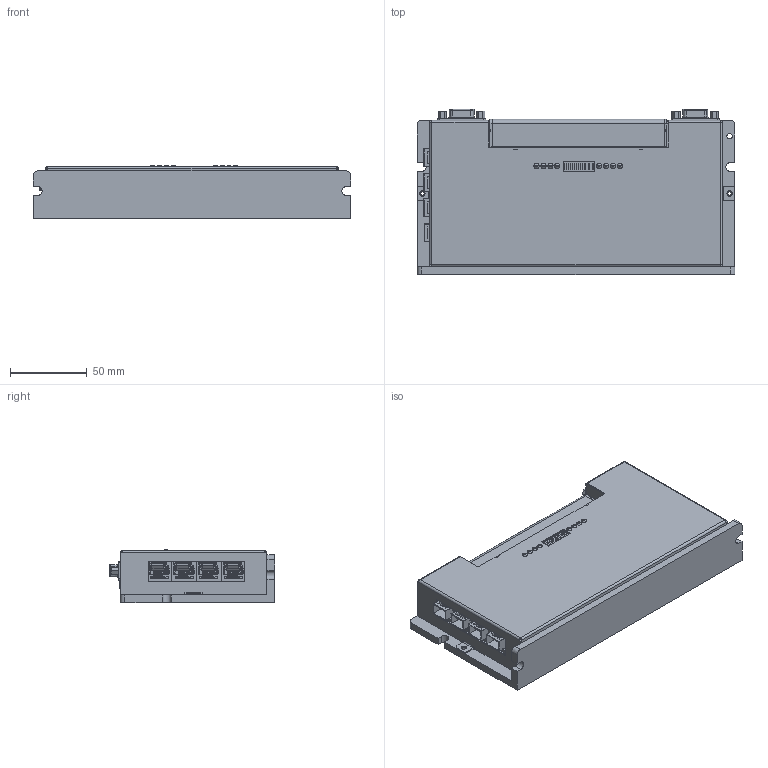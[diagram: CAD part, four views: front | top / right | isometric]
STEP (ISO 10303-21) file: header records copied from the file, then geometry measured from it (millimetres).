
FILE_DESCRIPTION((''),'2;1');
FILE_NAME('000_ASM','2020-06-09T14:27:39',('RD0060'),(''),'CREO PARAMETRIC BY PTC INC, 2016390','CREO PARAMETRIC BY PTC INC, 2016390','');
FILE_SCHEMA(('CONFIG_CONTROL_DESIGN'));
Products named in the file (28): FD134S-D2HT; APCB; DT12-1; DT-2; DT-12_ASM; PIN; PINT; PIN_ASM; CD; APCB_ASM; BPCB; 15ZHEN-DAOLISHI_2; WEBKOU_15; CRYSTALHEAD; TTL_ASM; 8PSW; DINKLE_0156-2924L; DINKLE-24P_ASM; LED1; RJ45; BPCB_ASM; PCB_ASM; HS; TR; M3-MOUS; HS1; M3X18; 000_ASM
Assembly tree (56 placements, depth 5):
  000_ASM
    FD134S-D2HT
    PCB_ASM
      APCB_ASM
        APCB
        DT-12_ASM
          DT12-1
          DT-2
        PIN_ASM
          PIN
          PINT
        CD  x2
      BPCB_ASM
        BPCB
        15ZHEN-DAOLISHI_2  x2
        TTL_ASM  x4
          WEBKOU_15
          CRYSTALHEAD
        8PSW
        DINKLE-24P_ASM
          DINKLE_0156-2924L
        LED1  x8
        RJ45  x4
    HS
    TR
    M3-MOUS  x8
    HS1
    M3X18  x8
Bounding box: 207 x 107.45 x 34.6 mm (x, y, z)
Volume: 313185.9 mm3; surface area: 265519.6 mm2
Topology: 60 solids, 80 shells, 4518 faces, 11686 edges, 7516 vertices
Faces by surface type: plane 3153, cylinder 1105, torus 96, bspline 80, cone 44, sphere 40
Entity records: 95617 total; most frequent: CARTESIAN_POINT 17906, ORIENTED_EDGE 16044, DIRECTION 15806, EDGE_CURVE 8022, VECTOR 6240, LINE 6240, VERTEX_POINT 5144, AXIS2_PLACEMENT_3D 4783
